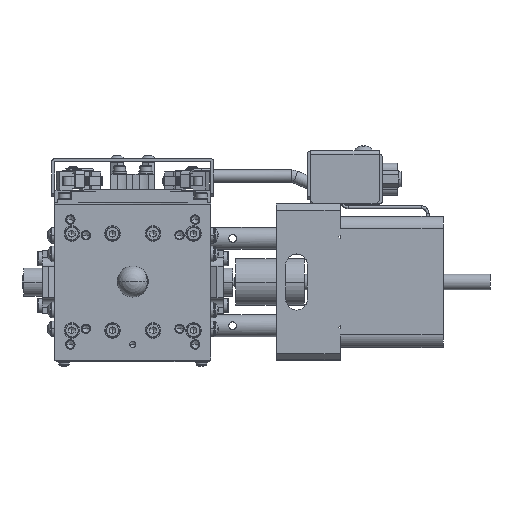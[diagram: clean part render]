
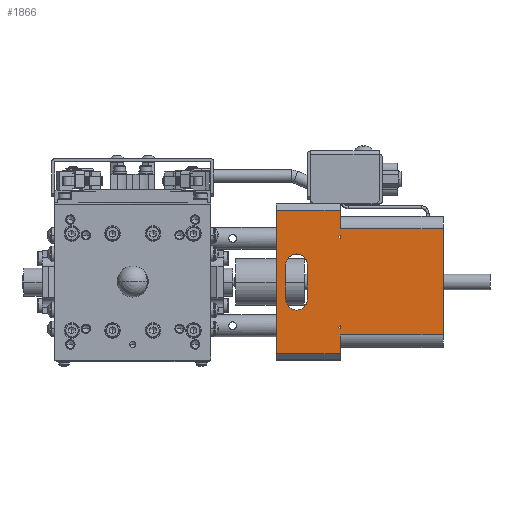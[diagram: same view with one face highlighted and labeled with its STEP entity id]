
A CAD part, top view. The second image highlights one B-rep face of the part: STEP entity #1866.
In plain terms, the highlighted planar face has unit normal (0, 0, 1).
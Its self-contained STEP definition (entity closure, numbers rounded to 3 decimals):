
#1866=ADVANCED_FACE('',(#20803,#20804,#20805,#20806),#20802,.T.);
#20802=PLANE('',#47160);
#20803=FACE_OUTER_BOUND('',#47161,.T.);
#20804=FACE_BOUND('',#47162,.T.);
#20805=FACE_BOUND('',#47163,.T.);
#20806=FACE_BOUND('',#47164,.T.);
#47157=CARTESIAN_POINT('',(104.85,27.6,29.));
#47158=DIRECTION('',(0.,0.,1.));
#47159=DIRECTION('',(-1.,0.,0.));
#47160=AXIS2_PLACEMENT_3D('',#47157,#47158,#47159);
#47161=EDGE_LOOP('',(#67102,#67103,#67104,#67105,#67106,#67107,#67108,#67109));
#47162=EDGE_LOOP('',(#67110,#67111,#67112));
#47163=EDGE_LOOP('',(#67113,#67114,#67115));
#47164=EDGE_LOOP('',(#67116,#67117,#67118,#67119));
#67102=ORIENTED_EDGE('',*,*,#79186,.F.);
#67103=ORIENTED_EDGE('',*,*,#79187,.T.);
#67104=ORIENTED_EDGE('',*,*,#79188,.T.);
#67105=ORIENTED_EDGE('',*,*,#79189,.T.);
#67106=ORIENTED_EDGE('',*,*,#79190,.F.);
#67107=ORIENTED_EDGE('',*,*,#79183,.T.);
#67108=ORIENTED_EDGE('',*,*,#79191,.F.);
#67109=ORIENTED_EDGE('',*,*,#79175,.T.);
#67110=ORIENTED_EDGE('',*,*,#79060,.F.);
#67111=ORIENTED_EDGE('',*,*,#79192,.T.);
#67112=ORIENTED_EDGE('',*,*,#79058,.F.);
#67113=ORIENTED_EDGE('',*,*,#79053,.F.);
#67114=ORIENTED_EDGE('',*,*,#79193,.T.);
#67115=ORIENTED_EDGE('',*,*,#79051,.F.);
#67116=ORIENTED_EDGE('',*,*,#79119,.T.);
#67117=ORIENTED_EDGE('',*,*,#79098,.T.);
#67118=ORIENTED_EDGE('',*,*,#79116,.F.);
#67119=ORIENTED_EDGE('',*,*,#79102,.T.);
#79051=EDGE_CURVE('',#114166,#114151,#114173,.T.);
#79053=EDGE_CURVE('',#114180,#114166,#114187,.T.);
#79058=EDGE_CURVE('',#114214,#114199,#114221,.T.);
#79060=EDGE_CURVE('',#114228,#114214,#114235,.T.);
#79098=EDGE_CURVE('',#114498,#114491,#114499,.T.);
#79102=EDGE_CURVE('',#114526,#114519,#114527,.T.);
#79116=EDGE_CURVE('',#114526,#114491,#114619,.T.);
#79119=EDGE_CURVE('',#114519,#114498,#114637,.T.);
#79175=EDGE_CURVE('',#115019,#115011,#115020,.T.);
#79183=EDGE_CURVE('',#115075,#115067,#115076,.T.);
#79186=EDGE_CURVE('',#115095,#115011,#115096,.T.);
#79187=EDGE_CURVE('',#115095,#115102,#115103,.T.);
#79188=EDGE_CURVE('',#115102,#115109,#115110,.T.);
#79189=EDGE_CURVE('',#115109,#115116,#115117,.T.);
#79190=EDGE_CURVE('',#115075,#115116,#115123,.T.);
#79191=EDGE_CURVE('',#115019,#115067,#115129,.T.);
#79192=EDGE_CURVE('',#114228,#114199,#115135,.T.);
#79193=EDGE_CURVE('',#114180,#114151,#115141,.T.);
#114151=VERTEX_POINT('',#154340);
#114166=VERTEX_POINT('',#154349);
#114173=LINE('',#154353,#154354);
#114180=VERTEX_POINT('',#154357);
#114187=LINE('',#154361,#154362);
#114199=VERTEX_POINT('',#154367);
#114214=VERTEX_POINT('',#154376);
#114221=LINE('',#154380,#154381);
#114228=VERTEX_POINT('',#154384);
#114235=LINE('',#154388,#154389);
#114491=VERTEX_POINT('',#154572);
#114498=VERTEX_POINT('',#154576);
#114499=CIRCLE('',#154580,3.5);
#114519=VERTEX_POINT('',#154618);
#114526=VERTEX_POINT('',#154622);
#114527=CIRCLE('',#154626,3.5);
#114619=LINE('',#154736,#154737);
#114637=LINE('',#154747,#154748);
#115011=VERTEX_POINT('',#154956);
#115019=VERTEX_POINT('',#154961);
#115020=LINE('',#154962,#154963);
#115067=VERTEX_POINT('',#154988);
#115075=VERTEX_POINT('',#154993);
#115076=LINE('',#154994,#154995);
#115095=VERTEX_POINT('',#155004);
#115096=LINE('',#155005,#155006);
#115102=VERTEX_POINT('',#155008);
#115103=LINE('',#155009,#155010);
#115109=VERTEX_POINT('',#155012);
#115110=LINE('',#155013,#155014);
#115116=VERTEX_POINT('',#155016);
#115117=LINE('',#155017,#155018);
#115123=LINE('',#155020,#155021);
#115129=LINE('',#155023,#155024);
#115135=LINE('',#155026,#155027);
#115141=LINE('',#155029,#155030);
#154340=CARTESIAN_POINT('',(66.5,-15.,29.));
#154349=CARTESIAN_POINT('',(66.,-14.5,29.));
#154353=CARTESIAN_POINT('',(66.,-14.5,29.));
#154354=VECTOR('',#154355,0.707);
#154355=DIRECTION('',(0.707,-0.707,0.));
#154357=CARTESIAN_POINT('',(66.5,-14.,29.));
#154361=CARTESIAN_POINT('',(66.5,-14.,29.));
#154362=VECTOR('',#154363,0.707);
#154363=DIRECTION('',(-0.707,-0.707,0.));
#154367=CARTESIAN_POINT('',(66.5,14.,29.));
#154376=CARTESIAN_POINT('',(66.,14.5,29.));
#154380=CARTESIAN_POINT('',(66.,14.5,29.));
#154381=VECTOR('',#154382,0.707);
#154382=DIRECTION('',(0.707,-0.707,0.));
#154384=CARTESIAN_POINT('',(66.5,15.,29.));
#154388=CARTESIAN_POINT('',(66.5,15.,29.));
#154389=VECTOR('',#154390,0.707);
#154390=DIRECTION('',(-0.707,-0.707,0.));
#154572=CARTESIAN_POINT('',(49.,-5.5,29.));
#154576=CARTESIAN_POINT('',(56.,-5.5,29.));
#154577=CARTESIAN_POINT('',(52.5,-5.5,29.));
#154578=DIRECTION('',(0.,0.,-1.));
#154579=DIRECTION('',(1.,0.,0.));
#154580=AXIS2_PLACEMENT_3D('',#154577,#154578,#154579);
#154618=CARTESIAN_POINT('',(56.,5.5,29.));
#154622=CARTESIAN_POINT('',(49.,5.5,29.));
#154623=CARTESIAN_POINT('',(52.5,5.5,29.));
#154624=DIRECTION('',(0.,0.,-1.));
#154625=DIRECTION('',(1.,0.,0.));
#154626=AXIS2_PLACEMENT_3D('',#154623,#154624,#154625);
#154736=CARTESIAN_POINT('',(49.,5.5,29.));
#154737=VECTOR('',#154738,11.);
#154738=DIRECTION('',(0.,-1.,0.));
#154747=CARTESIAN_POINT('',(56.,5.5,29.));
#154748=VECTOR('',#154749,11.);
#154749=DIRECTION('',(0.,-1.,0.));
#154956=CARTESIAN_POINT('',(66.5,-23.,29.));
#154961=CARTESIAN_POINT('',(46.,-23.,29.));
#154962=CARTESIAN_POINT('',(46.,-23.,29.));
#154963=VECTOR('',#154964,20.5);
#154964=DIRECTION('',(1.,0.,0.));
#154988=CARTESIAN_POINT('',(46.,23.,29.));
#154993=CARTESIAN_POINT('',(66.5,23.,29.));
#154994=CARTESIAN_POINT('',(66.5,23.,29.));
#154995=VECTOR('',#154996,20.5);
#154996=DIRECTION('',(-1.,0.,0.));
#155004=CARTESIAN_POINT('',(66.5,-17.,29.));
#155005=CARTESIAN_POINT('',(66.5,-17.,29.));
#155006=VECTOR('',#155007,6.);
#155007=DIRECTION('',(0.,-1.,0.));
#155008=CARTESIAN_POINT('',(99.5,-17.,29.));
#155009=CARTESIAN_POINT('',(66.5,-17.,29.));
#155010=VECTOR('',#155011,33.);
#155011=DIRECTION('',(1.,0.,0.));
#155012=CARTESIAN_POINT('',(99.5,17.,29.));
#155013=CARTESIAN_POINT('',(99.5,-17.,29.));
#155014=VECTOR('',#155015,34.);
#155015=DIRECTION('',(0.,1.,0.));
#155016=CARTESIAN_POINT('',(66.5,17.,29.));
#155017=CARTESIAN_POINT('',(99.5,17.,29.));
#155018=VECTOR('',#155019,33.);
#155019=DIRECTION('',(-1.,0.,0.));
#155020=CARTESIAN_POINT('',(66.5,23.,29.));
#155021=VECTOR('',#155022,6.);
#155022=DIRECTION('',(0.,-1.,0.));
#155023=CARTESIAN_POINT('',(46.,-23.,29.));
#155024=VECTOR('',#155025,46.);
#155025=DIRECTION('',(0.,1.,0.));
#155026=CARTESIAN_POINT('',(66.5,15.,29.));
#155027=VECTOR('',#155028,1.);
#155028=DIRECTION('',(0.,-1.,0.));
#155029=CARTESIAN_POINT('',(66.5,-14.,29.));
#155030=VECTOR('',#155031,1.);
#155031=DIRECTION('',(0.,-1.,0.));
